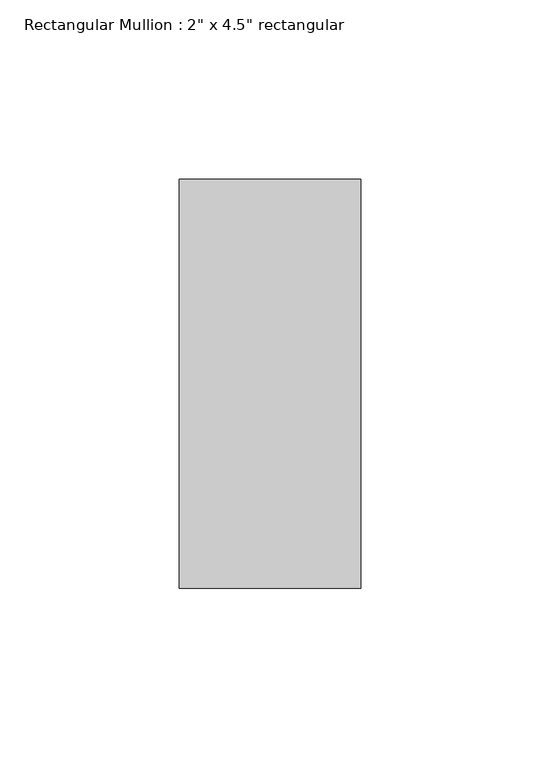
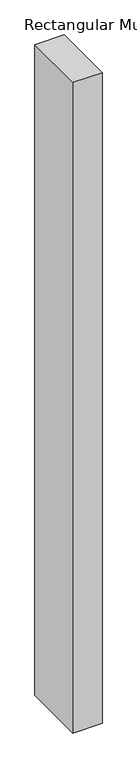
"""IFC4 building model written with IfcOpenShell, lengths in millimetres: member geometry."""

from ifc_helpers import new_model, si_unit, frame, origin, place, context, project, spatial, polyline, outline, extrude, source, transform, mapped, element, save


def member_1b18ecbc(model_context):
    return source(origin(), model_context, "Body", "SweptSolid", [
        extrude(outline(polyline([(0.0, 57.15), (0.0, -57.15), (-50.8, -57.15), (-50.8, 57.15), (0.0, 57.15)])), frame((0.0, 0.0, -1197.1536726), z_axis=(0.0, 0.0, 1.0), x_axis=(1.0, 0.0, 0.0)), (0.0, 0.0, 1.0), 1197.1536726),
    ])


if __name__ == "__main__":
    model = new_model("IFC4")
    model_context = context("Model", 3, world=origin())
    ifc_project = project(units=[si_unit("LENGTHUNIT", "METRE", prefix="MILLI")], contexts=[model_context])
    site = spatial("IfcSite", under=ifc_project)
    building = spatial("IfcBuilding", under=site)
    placement = place(None, origin())
    member_shape = member_1b18ecbc(model_context)
    element("IfcMember", 1, ObjectType="Rectangular Mullion : 2\" x 4.5\" rectangular", at=placement, inside=building, context=model_context, shape_type="MappedRepresentation", body=[
        mapped(member_shape, transform((0.0, 0.0, 0.0), x_axis=(1.0, 0.0, 0.0), y_axis=(0.0, 1.0, 0.0), z_axis=(0.0, 0.0, 1.0))),
    ])
    save(model, "model.ifc")
